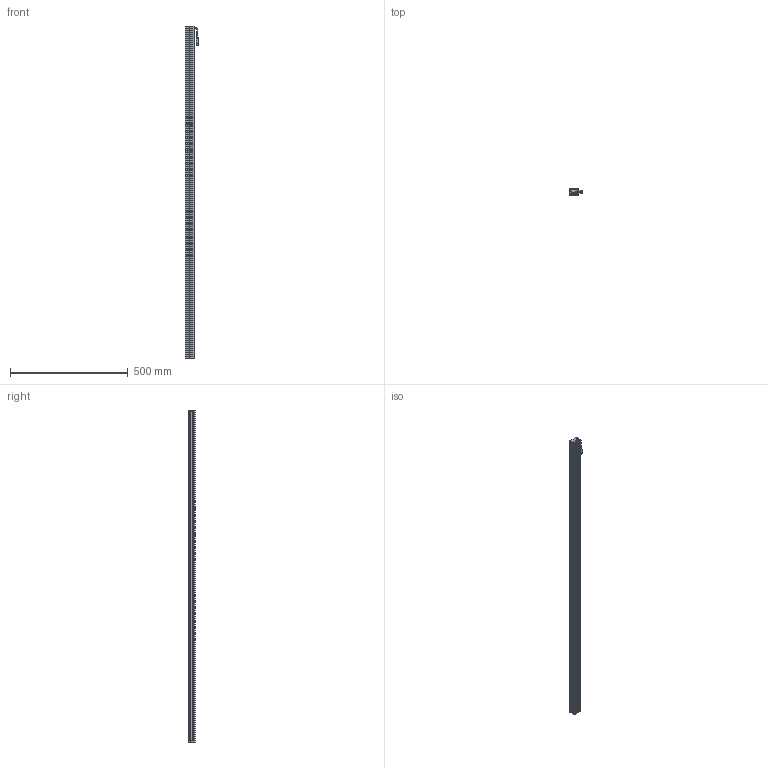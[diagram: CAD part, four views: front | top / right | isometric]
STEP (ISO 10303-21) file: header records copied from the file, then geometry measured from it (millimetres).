
FILE_DESCRIPTION (( 'STEP AP203' ), '1' );
FILE_NAME ('CK-BL140738.STEP', '2026-01-29T09:59:34', ( '' ), ( '' ), 'SwSTEP 2.0', 'SolidWorks 2022', '' );
FILE_SCHEMA (( 'CONFIG_CONTROL_DESIGN' ));
Length unit declared in the file: millimetre
Products named in the file (6): 光源线; CK140738-001A; CK-BL140738-002A; CK-BL140738; CK-BL140738-003A; 十字沉头螺丝 M2x10
Assembly tree (11 placements, depth 2):
  CK-BL140738
    CK140738-001A
    CK-BL140738-002A  x2
    CK-BL140738-003A
    光源线
    十字沉头螺丝 M2x10  x6
Bounding box: 55.84 x 27 x 1407 mm (x, y, z)
Volume: 563371.8 mm3; surface area: 485259.7 mm2
Topology: 13 solids, 13 shells, 641 faces, 1692 edges, 1082 vertices
Faces by surface type: plane 353, cylinder 210, cone 46, bspline 32
Entity records: 16373 total; most frequent: CARTESIAN_POINT 3399, ORIENTED_EDGE 2598, DIRECTION 2515, EDGE_CURVE 1299, VECTOR 875, LINE 875, VERTEX_POINT 846, AXIS2_PLACEMENT_3D 820
